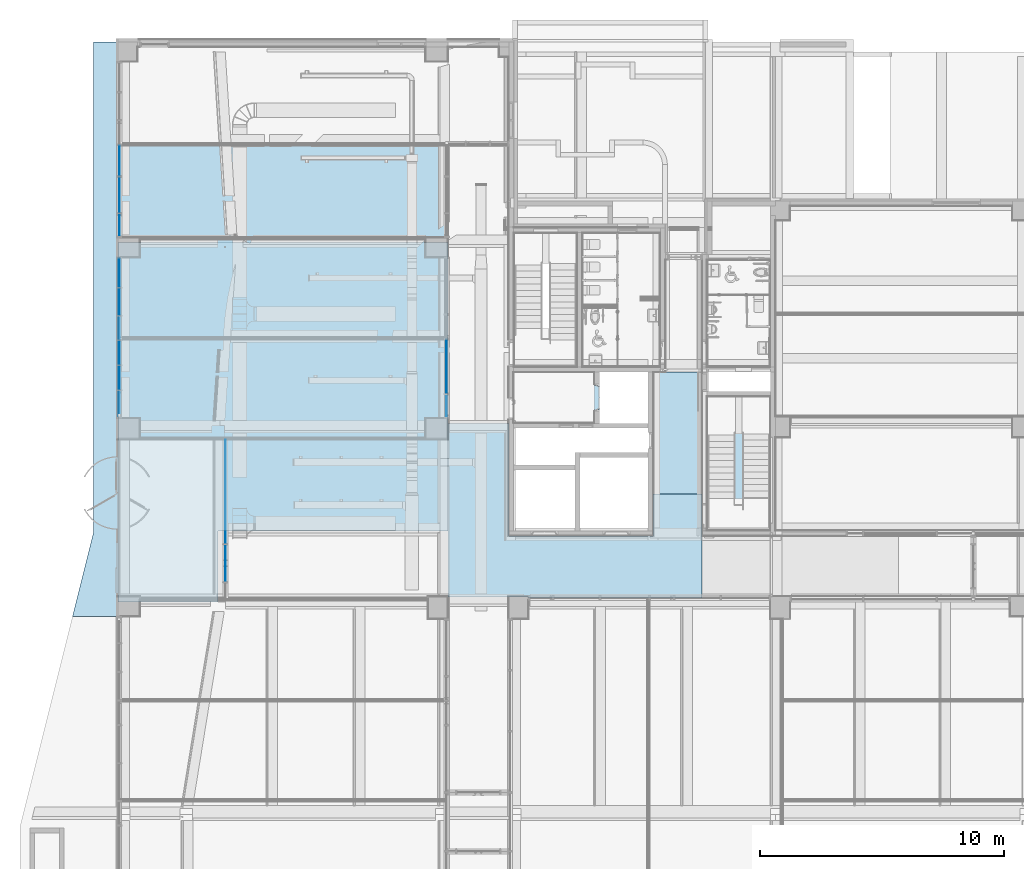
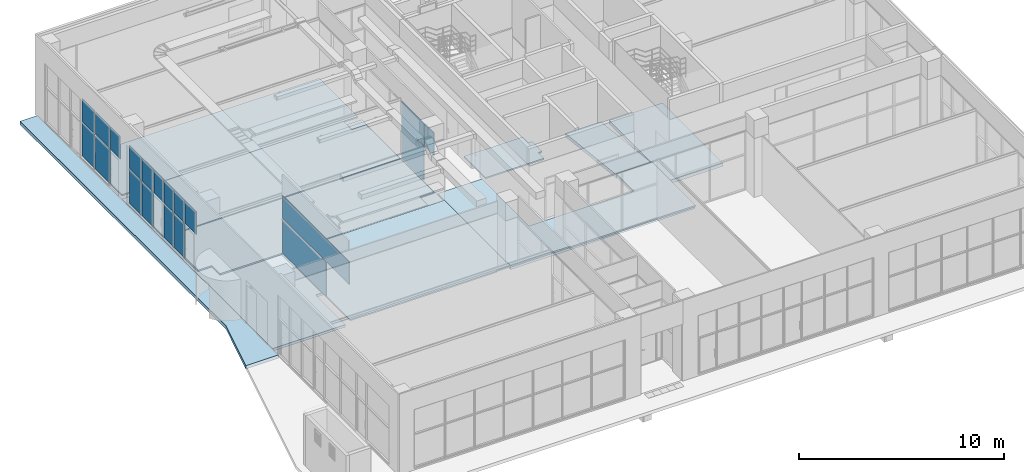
# One storey, part 24 of 100: 20 plates, 11 slabs, 4 elements without a shape of their own.
"""IFC2X3 building model written with IfcOpenShell, lengths in millimetres."""

from ifc_helpers import new_model, entity, si_unit, converted_unit, derived_unit, direction, frame, frame_2d, origin, origin_2d_with_axis, place, context, subcontext, project, spatial, polyline, rectangle, outline, extrude, clip, halfspace, source, transform, mapped, material, layer, layer_set, layer_usage, type_object, type_shapes, element, aggregate, save


model = new_model("IFC2X3")

# Units and contexts
model_context = context("Model", 3, precision=0.01, world=origin(), true_north=direction((6.123031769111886e-17, 1.0)))
body_context = subcontext(model_context, "Body", "Model", "MODEL_VIEW")
ifc_project = project(units=[si_unit("LENGTHUNIT", "METRE", prefix="MILLI"), si_unit("AREAUNIT", "SQUARE_METRE"), si_unit("VOLUMEUNIT", "CUBIC_METRE"), converted_unit("PLANEANGLEUNIT", "DEGREE", entity("IfcRatioMeasure", 0.017453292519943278), si_unit("PLANEANGLEUNIT", "RADIAN"), dimensions=[0, 0, 0, 0, 0, 0, 0]), si_unit("MASSUNIT", "GRAM", prefix="KILO"), derived_unit("MASSDENSITYUNIT", [(si_unit("MASSUNIT", "GRAM", prefix="KILO"), 1), (si_unit("LENGTHUNIT", "METRE"), -3)]), derived_unit("MOMENTOFINERTIAUNIT", [(si_unit("LENGTHUNIT", "METRE"), 4)]), si_unit("TIMEUNIT", "SECOND"), si_unit("FREQUENCYUNIT", "HERTZ"), si_unit("THERMODYNAMICTEMPERATUREUNIT", "DEGREE_CELSIUS"), derived_unit("THERMALTRANSMITTANCEUNIT", [(si_unit("MASSUNIT", "GRAM", prefix="KILO"), 1), (si_unit("THERMODYNAMICTEMPERATUREUNIT", "KELVIN"), -1), (si_unit("TIMEUNIT", "SECOND"), -3)]), derived_unit("VOLUMETRICFLOWRATEUNIT", [(si_unit("LENGTHUNIT", "METRE"), 3), (si_unit("TIMEUNIT", "SECOND"), -1)]), derived_unit("MASSFLOWRATEUNIT", [(si_unit("MASSUNIT", "GRAM", prefix="KILO"), 1), (si_unit("TIMEUNIT", "SECOND"), -1)]), derived_unit("ROTATIONALFREQUENCYUNIT", [(si_unit("TIMEUNIT", "SECOND"), -1)]), si_unit("ELECTRICCURRENTUNIT", "AMPERE"), si_unit("ELECTRICVOLTAGEUNIT", "VOLT"), si_unit("POWERUNIT", "WATT"), si_unit("FORCEUNIT", "NEWTON", prefix="KILO"), si_unit("ILLUMINANCEUNIT", "LUX"), si_unit("LUMINOUSFLUXUNIT", "LUMEN"), si_unit("LUMINOUSINTENSITYUNIT", "CANDELA"), derived_unit("USERDEFINED", [(si_unit("MASSUNIT", "GRAM", prefix="KILO"), -1), (si_unit("LENGTHUNIT", "METRE"), -2), (si_unit("TIMEUNIT", "SECOND"), 3), (si_unit("LUMINOUSFLUXUNIT", "LUMEN"), 1)]), derived_unit("SOUNDPOWERUNIT", [(si_unit("MASSUNIT", "GRAM", prefix="KILO"), 1), (si_unit("LENGTHUNIT", "METRE"), 2), (si_unit("TIMEUNIT", "SECOND"), -3)]), derived_unit("SOUNDPRESSUREUNIT", [(si_unit("MASSUNIT", "GRAM", prefix="KILO"), 1), (si_unit("LENGTHUNIT", "METRE"), -1), (si_unit("TIMEUNIT", "SECOND"), -2)]), derived_unit("LINEARVELOCITYUNIT", [(si_unit("LENGTHUNIT", "METRE"), 1), (si_unit("TIMEUNIT", "SECOND"), -1)]), si_unit("PRESSUREUNIT", "PASCAL"), derived_unit("USERDEFINED", [(si_unit("LENGTHUNIT", "METRE"), -2), (si_unit("MASSUNIT", "GRAM", prefix="KILO"), 1), (si_unit("TIMEUNIT", "SECOND"), -2)]), derived_unit("LINEARFORCEUNIT", [(si_unit("MASSUNIT", "GRAM", prefix="KILO"), 1), (si_unit("LENGTHUNIT", "METRE"), 1), (si_unit("TIMEUNIT", "SECOND"), -2), (si_unit("LENGTHUNIT", "METRE"), -1)]), derived_unit("PLANARFORCEUNIT", [(si_unit("MASSUNIT", "GRAM", prefix="KILO"), 1), (si_unit("LENGTHUNIT", "METRE"), 1), (si_unit("TIMEUNIT", "SECOND"), -2), (si_unit("LENGTHUNIT", "METRE"), -2)])], contexts=[model_context])

# Site, building, storey
site_placement = place(None, frame((-14167.972527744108, -657.2125860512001, 0.0)))
site = spatial("IfcSite", under=ifc_project, at=site_placement, Name="Default", CompositionType="ELEMENT")
building_placement = place(site_placement, origin())
building = spatial("IfcBuilding", under=site, at=building_placement, Name="Sample Building", CompositionType="ELEMENT")
storey_placement = place(building_placement, origin())
storey = spatial("IfcBuildingStorey", under=building, at=storey_placement, Name="지상 1층", CompositionType="ELEMENT", Elevation=0.0)

# Slabs
ifc_material_1 = material(Name="KBIMS-콘크리트")
ifc_layer_1 = layer(ifc_material_1, 200.0)
ifc_layer_set_1 = layer_set([ifc_layer_1], Name="바닥:SL111-철근콘크리트구조 바닥 200mm_S4")
ifc_layer_usage_1 = layer_usage(ifc_layer_set_1, "AXIS3", "POSITIVE", 0.0)
slab_type_1 = type_object("IfcSlabType", Name="바닥:SL111-철근콘크리트구조 바닥 200mm_S4", PredefinedType="FLOOR", material=ifc_layer_set_1)
slab_1_placement = place(storey_placement, origin())
element("IfcSlab", 1, at=slab_1_placement, inside=storey, type_object=slab_type_1, material=ifc_layer_usage_1, Name="바닥:SL111-철근콘크리트구조 바닥 200mm_S4", ObjectType="바닥:SL111-철근콘크리트구조 바닥 200mm_S4", PredefinedType="FLOOR", context=body_context, shape_type="SweptSolid", body=[
    clip(clip(extrude(rectangle(XDim=5030.159043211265, YDim=1999.991307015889, at=frame_2d((0.0, -6.480149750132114e-12), x_axis=(1.0, 0.0))), frame((36967.96814464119, 19757.21231133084, -275.0), z_axis=(0.0, -0.10934047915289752, -0.994004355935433), x_axis=(0.0, 0.994004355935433, -0.10934047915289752)), (0.10934047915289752, 0.0, 0.994004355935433), 202.42000000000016), halfspace(frame((36967.96814464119, 17257.212311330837, -201.20636172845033), z_axis=(0.0, -0.10934047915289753, -0.994004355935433), x_axis=(0.0, 0.994004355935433, -0.10934047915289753)), False)), halfspace(frame((36967.96814464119, 17257.212311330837, 0.0), z_axis=(0.0, 0.10934047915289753, 0.994004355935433), x_axis=(0.0, -0.994004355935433, 0.10934047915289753)), False)),
])
ifc_material_2 = material(Name="SL341-테라조 바닥 (바탕48mm, 마감32mm)")
ifc_layer_2 = layer(ifc_material_2, 80.0)
ifc_layer_set_2 = layer_set([ifc_layer_2], Name="바닥:A1-14-06B-테라조타일 (80mm)")
ifc_layer_usage_2 = layer_usage(ifc_layer_set_2, "AXIS3", "POSITIVE", 0.0)
slab_type_2 = type_object("IfcSlabType", Name="바닥:A1-14-06B-테라조타일 (80mm)", PredefinedType="FLOOR", material=ifc_layer_set_2)
slab_2_placement = place(storey_placement, origin())
element("IfcSlab", 2, at=slab_2_placement, inside=storey, type_object=slab_type_2, material=ifc_layer_usage_2, Name="바닥:A1-14-06B-테라조타일 (80mm)", ObjectType="바닥:A1-14-06B-테라조타일 (80mm)", PredefinedType="FLOOR", context=body_context, shape_type="SweptSolid", body=[
    extrude(outline(polyline([(-2675.026012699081, -6634.220285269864), (625.0086708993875, -6634.220285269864), (625.0086708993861, -5858.587504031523), (1425.0086708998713, -5858.58750403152), (1425.0086708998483, 5841.412587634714), (625.0086708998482, 5841.4125876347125), (625.0086708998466, 6651.395201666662), (-2675.026012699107, 6651.395201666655), (-2675.026012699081, -6634.220285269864)])), frame((20826.559940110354, 26332.20363709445, 80.0), z_axis=(0.0, 0.0, -1.0), x_axis=(0.0, 1.0, 0.0)), (0.0, 0.0, 1.0), 80.0),
])
ifc_material_3 = material(Name="SL312-화강석물갈기 바닥 (바탕30mm, 마감30mm)")
ifc_layer_3 = layer(ifc_material_3, 80.0)
ifc_layer_set_3 = layer_set([ifc_layer_3], Name="바닥:A1-15-01B-화강석(물갈기) (80mm)")
ifc_layer_usage_3 = layer_usage(ifc_layer_set_3, "AXIS3", "POSITIVE", 0.0)
slab_type_3 = type_object("IfcSlabType", Name="바닥:A1-15-01B-화강석(물갈기) (80mm)", PredefinedType="FLOOR", material=ifc_layer_set_3)
slab_3_placement = place(storey_placement, origin())
element("IfcSlab", 3, at=slab_3_placement, inside=storey, type_object=slab_type_3, material=ifc_layer_usage_3, Name="바닥:A1-15-01B-화강석(물갈기) (80mm)", ObjectType="바닥:A1-15-01B-화강석(물갈기) (80mm)", PredefinedType="FLOOR", context=body_context, shape_type="SweptSolid", body=[
    extrude(outline(polyline([(-1050.0, -2525.0), (1050.0, -2525.0), (1050.0, 775.0), (507.3633281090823, 775.0), (479.7770683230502, 975.0), (-479.7770683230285, 975.0), (-507.3633281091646, 775.0), (-1050.0, 775.0), (-1050.0, -2525.0)])), frame((32791.125814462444, 21207.212309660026, 80.0), z_axis=(0.0, 0.0, -1.0), x_axis=(0.0, 1.0, 0.0)), (0.0, 0.0, 1.0), 80.0),
])

# Curtain wall, plate
curtain_wall_type = type_object("IfcCurtainWallType", Name="커튼월:CW112-스테인리스 스틸 커튼월", PredefinedType="NOTDEFINED")
curtain_wall_1_placement = place(storey_placement, origin())
curtain_wall_1 = element("IfcCurtainWall", 4, at=curtain_wall_1_placement, inside=storey, type_object=curtain_wall_type, Name="커튼월:CW112-스테인리스 스틸 커튼월", ObjectType="커튼월:CW112-스테인리스 스틸 커튼월")
ifc_material_4 = material(Name="KBIMS-로이유리(코팅)")
plate_type_1 = type_object("IfcPlateType", Name="CW300-THK24.Low-e coating glass:CW300-THK24.Low-e coating glass", PredefinedType="CURTAIN_PANEL", material=ifc_material_4)
shared_shape_1 = source(origin(), body_context, "Body", "SweptSolid", [
    extrude(rectangle(XDim=1100.0000000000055, YDim=24.000000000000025, at=origin_2d_with_axis()), frame((0.0, 0.0, 0.0), z_axis=(0.0, 0.0, 1.0), x_axis=(-1.0, 0.0, 0.0)), (0.0, 0.0, 1.0), 2024.9999999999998),
])
type_shapes(plate_type_1, [shared_shape_1])
plate_1_placement = place(curtain_wall_1_placement, frame((14129.839654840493, 25132.17762439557, 130.0), z_axis=(0.0, 0.0, 1.0), x_axis=(0.0, -1.0, 0.0)))
plate_1 = element("IfcPlate", 5, at=plate_1_placement, type_object=plate_type_1, material=ifc_material_4, Name="CW300-THK24.Low-e coating glass:CW300-THK24.Low-e coating glass", ObjectType="CW300-THK24.Low-e coating glass:CW300-THK24.Low-e coating glass", context=body_context, shape_type="MappedRepresentation", body=[
    mapped(shared_shape_1, transform((0.0, 0.0, 0.0), scale=1.0)),
])

# Curtain wall, plates
curtain_wall_2_placement = place(storey_placement, origin())
curtain_wall_2 = element("IfcCurtainWall", 6, at=curtain_wall_2_placement, inside=storey, type_object=curtain_wall_type, Name="커튼월:CW112-스테인리스 스틸 커튼월", ObjectType="커튼월:CW112-스테인리스 스틸 커튼월")
plate_type_2 = type_object("IfcPlateType", Name="CW300-THK24.Low-e coating glass:CW300-THK24.Low-e coating glass", PredefinedType="CURTAIN_PANEL", material=ifc_material_4)
shared_shape_2 = source(origin(), body_context, "Body", "SweptSolid", [
    extrude(rectangle(XDim=1250.0000000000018, YDim=24.000000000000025, at=origin_2d_with_axis()), frame((0.0, 0.0, 0.0), z_axis=(0.0, 0.0, 1.0), x_axis=(-1.0, 0.0, 0.0)), (0.0, 0.0, 1.0), 2024.9999999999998),
])
type_shapes(plate_type_2, [shared_shape_2])
plate_2_placement = place(curtain_wall_2_placement, frame((14130.455105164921, 30907.177748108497, 130.0), z_axis=(0.0, 0.0, 1.0), x_axis=(0.0, -1.0, 0.0)))
plate_2 = element("IfcPlate", 7, at=plate_2_placement, type_object=plate_type_2, material=ifc_material_4, Name="CW300-THK24.Low-e coating glass:CW300-THK24.Low-e coating glass", ObjectType="CW300-THK24.Low-e coating glass:CW300-THK24.Low-e coating glass", context=body_context, shape_type="MappedRepresentation", body=[
    mapped(shared_shape_2, transform((0.0, 0.0, 0.0), scale=1.0)),
])
plate_type_3 = type_object("IfcPlateType", Name="CW300-THK24.Low-e coating glass:CW300-THK24.Low-e coating glass", PredefinedType="CURTAIN_PANEL", material=ifc_material_4)
shared_shape_3 = source(origin(), body_context, "Body", "SweptSolid", [
    extrude(rectangle(XDim=1449.965162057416, YDim=24.000000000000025, at=origin_2d_with_axis()), frame((0.0, 0.0, 0.0), z_axis=(0.0, 0.0, 1.0), x_axis=(-1.0, 0.0, 0.0)), (0.0, 0.0, 1.0), 2024.9999999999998),
])
type_shapes(plate_type_3, [shared_shape_3])
plate_3_placement = place(curtain_wall_2_placement, frame((14130.45510516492, 29507.19516707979, 130.0), z_axis=(0.0, 0.0, 1.0), x_axis=(0.0, -1.0, 0.0)))
plate_3 = element("IfcPlate", 8, at=plate_3_placement, type_object=plate_type_3, material=ifc_material_4, Name="CW300-THK24.Low-e coating glass:CW300-THK24.Low-e coating glass", ObjectType="CW300-THK24.Low-e coating glass:CW300-THK24.Low-e coating glass", context=body_context, shape_type="MappedRepresentation", body=[
    mapped(shared_shape_3, transform((0.0, 0.0, 0.0), scale=1.0)),
])

# Plate
plate_type_4 = type_object("IfcPlateType", Name="CW300-THK24.Low-e coating glass:CW300-THK24.Low-e coating glass", PredefinedType="CURTAIN_PANEL", material=ifc_material_4)
shared_shape_4 = source(origin(), body_context, "Body", "SweptSolid", [
    extrude(rectangle(XDim=1100.0000000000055, YDim=24.000000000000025, at=origin_2d_with_axis()), frame((0.0, 0.0, 0.0), z_axis=(0.0, 0.0, 1.0), x_axis=(-1.0, 0.0, 0.0)), (0.0, 0.0, 1.0), 1345.000000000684),
])
type_shapes(plate_type_4, [shared_shape_4])
plate_4_placement = place(curtain_wall_1_placement, frame((14129.839654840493, 25132.17762439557, 2205.0), z_axis=(0.0, 0.0, 1.0), x_axis=(0.0, -1.0, 0.0)))
plate_4 = element("IfcPlate", 9, at=plate_4_placement, type_object=plate_type_4, material=ifc_material_4, Name="CW300-THK24.Low-e coating glass:CW300-THK24.Low-e coating glass", ObjectType="CW300-THK24.Low-e coating glass:CW300-THK24.Low-e coating glass", context=body_context, shape_type="MappedRepresentation", body=[
    mapped(shared_shape_4, transform((0.0, 0.0, 0.0), scale=1.0)),
])

plate_type_5 = type_object("IfcPlateType", Name="CW300-THK24.Low-e coating glass:CW300-THK24.Low-e coating glass", PredefinedType="CURTAIN_PANEL", material=ifc_material_4)
shared_shape_5 = source(origin(), body_context, "Body", "SweptSolid", [
    extrude(rectangle(XDim=950.0000000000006, YDim=24.000000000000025, at=origin_2d_with_axis()), frame((0.0, 0.0, 0.0), z_axis=(0.0, 0.0, 1.0), x_axis=(-1.0, 0.0, 0.0)), (0.0, 0.0, 1.0), 1345.000000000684),
])
type_shapes(plate_type_5, [shared_shape_5])
plate_5_placement = place(curtain_wall_1_placement, frame((14129.83965484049, 24057.177624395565, 2205.0), z_axis=(0.0, 0.0, 1.0), x_axis=(0.0, -1.0, 0.0)))
plate_5 = element("IfcPlate", 10, at=plate_5_placement, type_object=plate_type_5, material=ifc_material_4, Name="CW300-THK24.Low-e coating glass:CW300-THK24.Low-e coating glass", ObjectType="CW300-THK24.Low-e coating glass:CW300-THK24.Low-e coating glass", context=body_context, shape_type="MappedRepresentation", body=[
    mapped(shared_shape_5, transform((0.0, 0.0, 0.0), scale=1.0)),
])

plate_type_6 = type_object("IfcPlateType", Name="CW300-THK24.Low-e coating glass:CW300-THK24.Low-e coating glass", PredefinedType="CURTAIN_PANEL", material=ifc_material_4)
shared_shape_6 = source(origin(), body_context, "Body", "SweptSolid", [
    extrude(rectangle(XDim=1250.0000000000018, YDim=24.000000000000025, at=origin_2d_with_axis()), frame((0.0, 0.0, 0.0), z_axis=(0.0, 0.0, 1.0), x_axis=(-1.0, 0.0, 0.0)), (0.0, 0.0, 1.0), 1345.000000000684),
])
type_shapes(plate_type_6, [shared_shape_6])
plate_6_placement = place(curtain_wall_2_placement, frame((14130.455105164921, 30907.177748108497, 2205.0), z_axis=(0.0, 0.0, 1.0), x_axis=(0.0, -1.0, 0.0)))
plate_6 = element("IfcPlate", 11, at=plate_6_placement, type_object=plate_type_6, material=ifc_material_4, Name="CW300-THK24.Low-e coating glass:CW300-THK24.Low-e coating glass", ObjectType="CW300-THK24.Low-e coating glass:CW300-THK24.Low-e coating glass", context=body_context, shape_type="MappedRepresentation", body=[
    mapped(shared_shape_6, transform((0.0, 0.0, 0.0), scale=1.0)),
])

plate_type_7 = type_object("IfcPlateType", Name="CW300-THK24.Low-e coating glass:CW300-THK24.Low-e coating glass", PredefinedType="CURTAIN_PANEL", material=ifc_material_4)
shared_shape_7 = source(origin(), body_context, "Body", "SweptSolid", [
    extrude(rectangle(XDim=1449.965162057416, YDim=24.000000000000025, at=origin_2d_with_axis()), frame((0.0, 0.0, 0.0), z_axis=(0.0, 0.0, 1.0), x_axis=(-1.0, 0.0, 0.0)), (0.0, 0.0, 1.0), 1345.000000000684),
])
type_shapes(plate_type_7, [shared_shape_7])
plate_7_placement = place(curtain_wall_2_placement, frame((14130.45510516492, 29507.19516707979, 2205.0), z_axis=(0.0, 0.0, 1.0), x_axis=(0.0, -1.0, 0.0)))
plate_7 = element("IfcPlate", 12, at=plate_7_placement, type_object=plate_type_7, material=ifc_material_4, Name="CW300-THK24.Low-e coating glass:CW300-THK24.Low-e coating glass", ObjectType="CW300-THK24.Low-e coating glass:CW300-THK24.Low-e coating glass", context=body_context, shape_type="MappedRepresentation", body=[
    mapped(shared_shape_7, transform((0.0, 0.0, 0.0), scale=1.0)),
])

plate_type_8 = type_object("IfcPlateType", Name="CW300-THK24.Low-e coating glass:CW300-THK24.Low-e coating glass", PredefinedType="CURTAIN_PANEL", material=ifc_material_4)
shared_shape_8 = source(origin(), body_context, "Body", "SweptSolid", [
    extrude(rectangle(XDim=925.0174167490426, YDim=24.000000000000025, at=origin_2d_with_axis()), frame((0.0, 0.0, 0.0), z_axis=(0.0, 0.0, 1.0), x_axis=(-1.0, 0.0, 0.0)), (0.0, 0.0, 1.0), 1345.0000000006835),
])
type_shapes(plate_type_8, [shared_shape_8])
plate_8_placement = place(curtain_wall_2_placement, frame((14130.455105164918, 28269.703877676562, 2205.0), z_axis=(0.0, 0.0, 1.0), x_axis=(0.0, -1.0, 0.0)))
plate_8 = element("IfcPlate", 13, at=plate_8_placement, type_object=plate_type_8, material=ifc_material_4, Name="CW300-THK24.Low-e coating glass:CW300-THK24.Low-e coating glass", ObjectType="CW300-THK24.Low-e coating glass:CW300-THK24.Low-e coating glass", context=body_context, shape_type="MappedRepresentation", body=[
    mapped(shared_shape_8, transform((0.0, 0.0, 0.0), scale=1.0)),
])

aggregate(curtain_wall_2, [plate_2, plate_3, plate_6, plate_7, plate_8])

plate_type_9 = type_object("IfcPlateType", Name="CW300-THK24.Low-e coating glass:CW300-THK24.Low-e coating glass", PredefinedType="CURTAIN_PANEL", material=ifc_material_4)
shared_shape_9 = source(origin(), body_context, "Body", "SweptSolid", [
    extrude(rectangle(XDim=1175.0172668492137, YDim=24.000000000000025, at=origin_2d_with_axis()), frame((0.0, 0.0, 0.0), z_axis=(0.0, 0.0, 1.0), x_axis=(-1.0, 0.0, 0.0)), (0.0, 0.0, 1.0), 2024.9999999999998),
])
type_shapes(plate_type_9, [shared_shape_9])
plate_9_placement = place(curtain_wall_1_placement, frame((14129.839654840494, 26319.686257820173, 130.0), z_axis=(0.0, 0.0, 1.0), x_axis=(0.0, -1.0, 0.0)))
plate_9 = element("IfcPlate", 14, at=plate_9_placement, type_object=plate_type_9, material=ifc_material_4, Name="CW300-THK24.Low-e coating glass:CW300-THK24.Low-e coating glass", ObjectType="CW300-THK24.Low-e coating glass:CW300-THK24.Low-e coating glass", context=body_context, shape_type="MappedRepresentation", body=[
    mapped(shared_shape_9, transform((0.0, 0.0, 0.0), scale=1.0)),
])

plate_type_10 = type_object("IfcPlateType", Name="CW300-THK24.Low-e coating glass:CW300-THK24.Low-e coating glass", PredefinedType="CURTAIN_PANEL", material=ifc_material_4)
shared_shape_10 = source(origin(), body_context, "Body", "SweptSolid", [
    extrude(rectangle(XDim=975.0000000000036, YDim=24.000000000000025, at=origin_2d_with_axis()), frame((0.0, 0.0, 0.0), z_axis=(0.0, 0.0, 1.0), x_axis=(-1.0, 0.0, 0.0)), (0.0, 0.0, 1.0), 2024.9999999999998),
])
type_shapes(plate_type_10, [shared_shape_10])
plate_10_placement = place(curtain_wall_1_placement, frame((14129.83965484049, 23044.677624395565, 130.0), z_axis=(0.0, 0.0, 1.0), x_axis=(0.0, -1.0, 0.0)))
plate_10 = element("IfcPlate", 15, at=plate_10_placement, type_object=plate_type_10, material=ifc_material_4, Name="CW300-THK24.Low-e coating glass:CW300-THK24.Low-e coating glass", ObjectType="CW300-THK24.Low-e coating glass:CW300-THK24.Low-e coating glass", context=body_context, shape_type="MappedRepresentation", body=[
    mapped(shared_shape_10, transform((0.0, 0.0, 0.0), scale=1.0)),
])

plate_11_placement = place(curtain_wall_1_placement, frame((14129.839654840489, 22019.677624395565, 130.0), z_axis=(0.0, 0.0, 1.0), x_axis=(0.0, -1.0, 0.0)))
plate_11 = element("IfcPlate", 16, at=plate_11_placement, type_object=plate_type_10, material=ifc_material_4, Name="CW300-THK24.Low-e coating glass:CW300-THK24.Low-e coating glass", ObjectType="CW300-THK24.Low-e coating glass:CW300-THK24.Low-e coating glass", context=body_context, shape_type="MappedRepresentation", body=[
    mapped(shared_shape_10, transform((0.0, 0.0, 0.0), scale=1.0)),
])

plate_type_11 = type_object("IfcPlateType", Name="CW300-THK24.Low-e coating glass:CW300-THK24.Low-e coating glass", PredefinedType="CURTAIN_PANEL", material=ifc_material_4)
shared_shape_11 = source(origin(), body_context, "Body", "SweptSolid", [
    extrude(rectangle(XDim=1175.0172668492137, YDim=24.000000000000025, at=origin_2d_with_axis()), frame((0.0, 0.0, 0.0), z_axis=(0.0, 0.0, 1.0), x_axis=(-1.0, 0.0, 0.0)), (0.0, 0.0, 1.0), 1345.000000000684),
])
type_shapes(plate_type_11, [shared_shape_11])
plate_12_placement = place(curtain_wall_1_placement, frame((14129.839654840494, 26319.686257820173, 2205.0), z_axis=(0.0, 0.0, 1.0), x_axis=(0.0, -1.0, 0.0)))
plate_12 = element("IfcPlate", 17, at=plate_12_placement, type_object=plate_type_11, material=ifc_material_4, Name="CW300-THK24.Low-e coating glass:CW300-THK24.Low-e coating glass", ObjectType="CW300-THK24.Low-e coating glass:CW300-THK24.Low-e coating glass", context=body_context, shape_type="MappedRepresentation", body=[
    mapped(shared_shape_11, transform((0.0, 0.0, 0.0), scale=1.0)),
])

plate_type_12 = type_object("IfcPlateType", Name="CW300-THK24.Low-e coating glass:CW300-THK24.Low-e coating glass", PredefinedType="CURTAIN_PANEL", material=ifc_material_4)
shared_shape_12 = source(origin(), body_context, "Body", "SweptSolid", [
    extrude(rectangle(XDim=975.0000000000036, YDim=24.000000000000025, at=origin_2d_with_axis()), frame((0.0, 0.0, 0.0), z_axis=(0.0, 0.0, 1.0), x_axis=(-1.0, 0.0, 0.0)), (0.0, 0.0, 1.0), 1345.000000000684),
])
type_shapes(plate_type_12, [shared_shape_12])
plate_13_placement = place(curtain_wall_1_placement, frame((14129.83965484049, 23044.677624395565, 2205.0), z_axis=(0.0, 0.0, 1.0), x_axis=(0.0, -1.0, 0.0)))
plate_13 = element("IfcPlate", 18, at=plate_13_placement, type_object=plate_type_12, material=ifc_material_4, Name="CW300-THK24.Low-e coating glass:CW300-THK24.Low-e coating glass", ObjectType="CW300-THK24.Low-e coating glass:CW300-THK24.Low-e coating glass", context=body_context, shape_type="MappedRepresentation", body=[
    mapped(shared_shape_12, transform((0.0, 0.0, 0.0), scale=1.0)),
])

plate_14_placement = place(curtain_wall_1_placement, frame((14129.839654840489, 22019.677624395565, 2205.0), z_axis=(0.0, 0.0, 1.0), x_axis=(0.0, -1.0, 0.0)))
plate_14 = element("IfcPlate", 19, at=plate_14_placement, type_object=plate_type_12, material=ifc_material_4, Name="CW300-THK24.Low-e coating glass:CW300-THK24.Low-e coating glass", ObjectType="CW300-THK24.Low-e coating glass:CW300-THK24.Low-e coating glass", context=body_context, shape_type="MappedRepresentation", body=[
    mapped(shared_shape_12, transform((0.0, 0.0, 0.0), scale=1.0)),
])

plate_type_13 = type_object("IfcPlateType", Name="CW300-THK24.Low-e coating glass:CW300-THK24.Low-e coating glass", PredefinedType="CURTAIN_PANEL", material=ifc_material_4)
shared_shape_13 = source(origin(), body_context, "Body", "SweptSolid", [
    extrude(rectangle(XDim=1074.982733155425, YDim=24.000000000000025, at=origin_2d_with_axis()), frame((0.0, 0.0, 0.0), z_axis=(0.0, 0.0, 1.0), x_axis=(-1.0, 0.0, 0.0)), (0.0, 0.0, 1.0), 1345.0000000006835),
])
type_shapes(plate_type_13, [shared_shape_13])
plate_15_placement = place(curtain_wall_1_placement, frame((14129.839654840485, 20944.68625781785, 2205.0), z_axis=(0.0, 0.0, 1.0), x_axis=(0.0, -1.0, 0.0)))
plate_15 = element("IfcPlate", 20, at=plate_15_placement, type_object=plate_type_13, material=ifc_material_4, Name="CW300-THK24.Low-e coating glass:CW300-THK24.Low-e coating glass", ObjectType="CW300-THK24.Low-e coating glass:CW300-THK24.Low-e coating glass", context=body_context, shape_type="MappedRepresentation", body=[
    mapped(shared_shape_13, transform((0.0, 0.0, 0.0), scale=1.0)),
])

aggregate(curtain_wall_1, [plate_9, plate_1, plate_10, plate_11, plate_12, plate_4, plate_5, plate_13, plate_14, plate_15])

# Curtain wall, plates
curtain_wall_3_placement = place(storey_placement, origin())
curtain_wall_3 = element("IfcCurtainWall", 21, at=curtain_wall_3_placement, inside=storey, type_object=curtain_wall_type, Name="커튼월:CW112-스테인리스 스틸 커튼월", ObjectType="커튼월:CW112-스테인리스 스틸 커튼월")
plate_type_14 = type_object("IfcPlateType", Name="CW300-THK24.Low-e coating glass:CW300-THK24.Low-e coating glass", PredefinedType="CURTAIN_PANEL", material=ifc_material_4)
shared_shape_14 = source(origin(), body_context, "Body", "SweptSolid", [
    extrude(rectangle(XDim=24.000000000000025, YDim=4262.409290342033, at=origin_2d_with_axis()), frame((0.0, 0.0, 0.0), z_axis=(0.0, 0.0, 1.0), x_axis=(0.0, 1.0, 0.0)), (0.0, 0.0, 1.0), 2024.9999999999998),
])
type_shapes(plate_type_14, [shared_shape_14])
plate_16_placement = place(curtain_wall_3_placement, frame((18467.96379814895, 17363.472979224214, 130.0), z_axis=(0.0, 0.0, 1.0), x_axis=(0.0, -1.0, 0.0)))
plate_16 = element("IfcPlate", 22, at=plate_16_placement, type_object=plate_type_14, material=ifc_material_4, Name="CW300-THK24.Low-e coating glass:CW300-THK24.Low-e coating glass", ObjectType="CW300-THK24.Low-e coating glass:CW300-THK24.Low-e coating glass", context=body_context, shape_type="MappedRepresentation", body=[
    mapped(shared_shape_14, transform((0.0, 0.0, 0.0), scale=1.0)),
])
plate_type_15 = type_object("IfcPlateType", Name="CW300-THK24.Low-e coating glass:CW300-THK24.Low-e coating glass", PredefinedType="CURTAIN_PANEL", material=ifc_material_4)
shared_shape_15 = source(origin(), body_context, "Body", "SweptSolid", [
    extrude(rectangle(XDim=24.000000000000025, YDim=6492.4650383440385, at=origin_2d_with_axis()), frame((0.0, 0.0, 0.0), z_axis=(0.0, 0.0, 1.0), x_axis=(0.0, 1.0, 0.0)), (0.0, 0.0, 1.0), 1345.000000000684),
])
type_shapes(plate_type_15, [shared_shape_15])
plate_17_placement = place(curtain_wall_3_placement, frame((18467.963798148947, 16248.44510522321, 2205.0), z_axis=(0.0, 0.0, 1.0), x_axis=(0.0, -1.0, 0.0)))
plate_17 = element("IfcPlate", 23, at=plate_17_placement, type_object=plate_type_15, material=ifc_material_4, Name="CW300-THK24.Low-e coating glass:CW300-THK24.Low-e coating glass", ObjectType="CW300-THK24.Low-e coating glass:CW300-THK24.Low-e coating glass", context=body_context, shape_type="MappedRepresentation", body=[
    mapped(shared_shape_15, transform((0.0, 0.0, 0.0), scale=1.0)),
])
aggregate(curtain_wall_3, [plate_16, plate_17])

curtain_wall_4_placement = place(storey_placement, origin())
curtain_wall_4 = element("IfcCurtainWall", 24, at=curtain_wall_4_placement, inside=storey, type_object=curtain_wall_type, Name="커튼월:CW112-스테인리스 스틸 커튼월", ObjectType="커튼월:CW112-스테인리스 스틸 커튼월")
plate_type_16 = type_object("IfcPlateType", Name="CW300-THK24.Low-e coating glass:CW300-THK24.Low-e coating glass", PredefinedType="CURTAIN_PANEL", material=ifc_material_4)
shared_shape_16 = source(origin(), body_context, "Body", "SweptSolid", [
    extrude(rectangle(XDim=924.9999999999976, YDim=24.000000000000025, at=origin_2d_with_axis()), frame((0.0, 0.0, 0.0), z_axis=(0.0, 0.0, 1.0), x_axis=(-1.0, 0.0, 0.0)), (0.0, 0.0, 1.0), 1345.0000000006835),
])
type_shapes(plate_type_16, [shared_shape_16])
plate_18_placement = place(curtain_wall_4_placement, frame((27522.955141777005, 20869.71230798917, 2205.0), z_axis=(0.0, 0.0, 1.0), x_axis=(0.0, 1.0, 0.0)))
plate_18 = element("IfcPlate", 25, at=plate_18_placement, type_object=plate_type_16, material=ifc_material_4, Name="CW300-THK24.Low-e coating glass:CW300-THK24.Low-e coating glass", ObjectType="CW300-THK24.Low-e coating glass:CW300-THK24.Low-e coating glass", context=body_context, shape_type="MappedRepresentation", body=[
    mapped(shared_shape_16, transform((0.0, 0.0, 0.0), scale=1.0)),
])
plate_type_17 = type_object("IfcPlateType", Name="CW300-THK24.Low-e coating glass:CW300-THK24.Low-e coating glass", PredefinedType="CURTAIN_PANEL", material=ifc_material_4)
shared_shape_17 = source(origin(), body_context, "Body", "SweptSolid", [
    extrude(rectangle(XDim=2199.9653164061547, YDim=24.000000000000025, at=origin_2d_with_axis()), frame((0.0, 0.0, 0.0), z_axis=(0.0, 0.0, 1.0), x_axis=(-1.0, 0.0, 0.0)), (0.0, 0.0, 1.0), 2024.9999999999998),
])
type_shapes(plate_type_17, [shared_shape_17])
plate_19_placement = place(curtain_wall_4_placement, frame((27522.95514177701, 22482.194966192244, 130.0), z_axis=(0.0, 0.0, 1.0), x_axis=(0.0, 1.0, 0.0)))
plate_19 = element("IfcPlate", 26, at=plate_19_placement, type_object=plate_type_17, material=ifc_material_4, Name="CW300-THK24.Low-e coating glass:CW300-THK24.Low-e coating glass", ObjectType="CW300-THK24.Low-e coating glass:CW300-THK24.Low-e coating glass", context=body_context, shape_type="MappedRepresentation", body=[
    mapped(shared_shape_17, transform((0.0, 0.0, 0.0), scale=1.0)),
])
plate_type_18 = type_object("IfcPlateType", Name="CW300-THK24.Low-e coating glass:CW300-THK24.Low-e coating glass", PredefinedType="CURTAIN_PANEL", material=ifc_material_4)
shared_shape_18 = source(origin(), body_context, "Body", "SweptSolid", [
    extrude(rectangle(XDim=2199.9653164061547, YDim=24.000000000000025, at=origin_2d_with_axis()), frame((0.0, 0.0, 0.0), z_axis=(0.0, 0.0, 1.0), x_axis=(-1.0, 0.0, 0.0)), (0.0, 0.0, 1.0), 1345.000000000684),
])
type_shapes(plate_type_18, [shared_shape_18])
plate_20_placement = place(curtain_wall_4_placement, frame((27522.95514177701, 22482.194966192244, 2205.0), z_axis=(0.0, 0.0, 1.0), x_axis=(0.0, 1.0, 0.0)))
plate_20 = element("IfcPlate", 27, at=plate_20_placement, type_object=plate_type_18, material=ifc_material_4, Name="CW300-THK24.Low-e coating glass:CW300-THK24.Low-e coating glass", ObjectType="CW300-THK24.Low-e coating glass:CW300-THK24.Low-e coating glass", context=body_context, shape_type="MappedRepresentation", body=[
    mapped(shared_shape_18, transform((0.0, 0.0, 0.0), scale=1.0)),
])
aggregate(curtain_wall_4, [plate_19, plate_18, plate_20])

# Slabs
ifc_layer_4 = layer(ifc_material_1, 150.0)
ifc_layer_set_4 = layer_set([ifc_layer_4], Name="바닥:SL111-철근콘크리트구조 바닥 150mm_S3")
ifc_layer_usage_4 = layer_usage(ifc_layer_set_4, "AXIS3", "POSITIVE", 0.0)
slab_type_4 = type_object("IfcSlabType", Name="바닥:SL111-철근콘크리트구조 바닥 150mm_S3", PredefinedType="FLOOR", material=ifc_layer_set_4)
slab_4_placement = place(storey_placement, origin())
element("IfcSlab", 28, at=slab_4_placement, inside=storey, type_object=slab_type_4, material=ifc_layer_usage_4, Name="바닥:SL111-철근콘크리트구조 바닥 150mm_S3", ObjectType="바닥:SL111-철근콘크리트구조 바닥 150mm_S3", PredefinedType="FLOOR", context=body_context, shape_type="SweptSolid", body=[
    extrude(outline(polyline([(-3450.000010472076, -5325.008692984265), (3650.0, -5325.008692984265), (3650.0, -2825.0), (-949.9999976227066, -2825.0), (-949.9999976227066, 3075.008692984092), (750.0000057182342, 3075.008692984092), (750.0000057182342, 5075.0), (-3450.000010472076, 5075.0), (-3450.000010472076, -5325.008692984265)])), frame((32892.96379814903, 16507.212305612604, 0.0), z_axis=(0.0, 0.0, -1.0), x_axis=(0.0, 1.0, 0.0)), (0.0, 0.0, 1.0), 150.0),
])
ifc_layer_5 = layer(ifc_material_1, 150.0)
ifc_layer_set_5 = layer_set([ifc_layer_5], Name="바닥:SL111-철근콘크리트구조 바닥 150mm_S2")
ifc_layer_usage_5 = layer_usage(ifc_layer_set_5, "AXIS3", "POSITIVE", 0.0)
slab_type_5 = type_object("IfcSlabType", Name="바닥:SL111-철근콘크리트구조 바닥 150mm_S2", PredefinedType="FLOOR", material=ifc_layer_set_5)
slab_5_placement = place(storey_placement, origin())
element("IfcSlab", 29, at=slab_5_placement, inside=storey, type_object=slab_type_5, material=ifc_layer_usage_5, Name="바닥:SL111-철근콘크리트구조 바닥 150mm_S2", ObjectType="바닥:SL111-철근콘크리트구조 바닥 150mm_S2", PredefinedType="FLOOR", context=body_context, shape_type="SweptSolid", body=[
    extrude(outline(polyline([(-5866.66665716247, -5866.657998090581), (8833.333355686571, -5866.657998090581), (8833.333355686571, 7633.324652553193), (-2966.666698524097, 7633.324652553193), (-2966.666698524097, -1766.6666544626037), (-5866.66665716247, -1766.666654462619), (-5866.66665716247, -5866.657998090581)])), frame((19934.63045261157, 18723.878952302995, 0.0), z_axis=(0.0, 0.0, -1.0), x_axis=(0.0, 1.0, 0.0)), (0.0, 0.0, 1.0), 150.0),
])
ifc_layer_usage_6 = layer_usage(ifc_layer_set_3, "AXIS3", "POSITIVE", 0.0)
slab_type_6 = type_object("IfcSlabType", Name="바닥:A1-15-01B-화강석(물갈기) (80mm)", PredefinedType="FLOOR", material=ifc_layer_set_3)
slab_6_placement = place(storey_placement, origin())
element("IfcSlab", 30, at=slab_6_placement, inside=storey, type_object=slab_type_6, material=ifc_layer_usage_6, Name="바닥:A1-15-01B-화강석(물갈기) (80mm)", ObjectType="바닥:A1-15-01B-화강석(물갈기) (80mm)", PredefinedType="FLOOR", context=body_context, shape_type="SweptSolid", body=[
    extrude(outline(polyline([(-2182.4882534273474, -5770.000012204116), (4309.9767849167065, -5770.000012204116), (4309.976784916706, 3284.9913314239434), (-2127.4885314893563, 3284.9913314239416), (-2127.488531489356, 2485.0086807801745), (-2182.488253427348, 2485.0086807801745), (-2182.4882534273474, -5770.000012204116)])), frame((24282.96381035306, 15184.700839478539, 80.0), z_axis=(0.0, 0.0, -1.0), x_axis=(0.0, 1.0, 0.0)), (0.0, 0.0, 1.0), 80.0),
])
ifc_layer_usage_7 = layer_usage(ifc_layer_set_1, "AXIS3", "POSITIVE", 0.0)
slab_type_7 = type_object("IfcSlabType", Name="바닥:SL111-철근콘크리트구조 바닥 200mm_S4", PredefinedType="FLOOR", material=ifc_layer_set_1)
slab_7_placement = place(storey_placement, origin())
element("IfcSlab", 31, at=slab_7_placement, inside=storey, type_object=slab_type_7, material=ifc_layer_usage_7, Name="바닥:SL111-철근콘크리트구조 바닥 200mm_S4", ObjectType="바닥:SL111-철근콘크리트구조 바닥 200mm_S4", PredefinedType="FLOOR", context=body_context, shape_type="SweptSolid", body=[
    extrude(rectangle(XDim=5899.999996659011, YDim=3000.0000000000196, at=frame_2d((-3.183231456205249e-12, -4.320099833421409e-12), x_axis=(1.0, 0.0))), frame((39467.963798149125, 18507.2122934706, 0.0), z_axis=(0.0, 0.0, -1.0), x_axis=(0.0, 1.0, 0.0)), (0.0, 0.0, 1.0), 200.0),
])
ifc_layer_usage_8 = layer_usage(ifc_layer_set_2, "AXIS3", "POSITIVE", 0.0)
slab_type_8 = type_object("IfcSlabType", Name="바닥:A1-14-06B-테라조타일 (80mm)", PredefinedType="FLOOR", material=ifc_layer_set_2)
slab_8_placement = place(storey_placement, origin())
element("IfcSlab", 32, at=slab_8_placement, inside=storey, type_object=slab_type_8, material=ifc_layer_usage_8, Name="바닥:A1-14-06B-테라조타일 (80mm)", ObjectType="바닥:A1-14-06B-테라조타일 (80mm)", PredefinedType="FLOOR", context=body_context, shape_type="SweptSolid", body=[
    extrude(rectangle(XDim=3774.9651620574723, YDim=13285.000036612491, at=frame_2d((-4.320099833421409e-12, 2.0463630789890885e-11), x_axis=(1.0, 0.0))), frame((20835.455123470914, 29644.69516707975, 80.0), z_axis=(0.0, 0.0, -1.0), x_axis=(0.0, 1.0, 0.0)), (0.0, 0.0, 1.0), 80.0),
])
ifc_layer_usage_9 = layer_usage(ifc_layer_set_2, "AXIS3", "POSITIVE", 0.0)
slab_type_9 = type_object("IfcSlabType", Name="바닥:A1-14-06B-테라조타일 (80mm)", PredefinedType="FLOOR", material=ifc_layer_set_2)
slab_9_placement = place(storey_placement, origin())
element("IfcSlab", 33, at=slab_9_placement, inside=storey, type_object=slab_type_9, material=ifc_layer_usage_9, Name="바닥:A1-14-06B-테라조타일 (80mm)", ObjectType="바닥:A1-14-06B-테라조타일 (80mm)", PredefinedType="FLOOR", context=body_context, shape_type="SweptSolid", body=[
    extrude(outline(polyline([(-609.3576582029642, -6634.220285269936), (2628.1076582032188, -6634.220285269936), (2628.1076582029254, 6651.395201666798), (-609.3576582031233, 6651.395201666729), (-609.3576582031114, 5841.412587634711), (-1409.3923417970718, 5841.412587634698), (-1409.3923417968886, -5858.587504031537), (-609.3576582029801, -5858.587504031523), (-609.3576582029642, -6634.220285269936)])), frame((20826.559940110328, 20966.569966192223, 80.0), z_axis=(0.0, 0.0, -1.0), x_axis=(0.0, 1.0, 0.0)), (0.0, 0.0, 1.0), 80.0),
])
ifc_layer_6 = layer(ifc_material_1, 200.0)
ifc_layer_set_6 = layer_set([ifc_layer_6], Name="바닥:SL111-철근콘크리트구조 바닥 200mm_S11")
ifc_layer_usage_10 = layer_usage(ifc_layer_set_6, "AXIS3", "POSITIVE", 0.0)
slab_type_10 = type_object("IfcSlabType", Name="바닥:SL111-철근콘크리트구조 바닥 200mm_S11", PredefinedType="FLOOR", material=ifc_layer_set_6)
slab_10_placement = place(storey_placement, origin())
element("IfcSlab", 34, at=slab_10_placement, inside=storey, type_object=slab_type_10, material=ifc_layer_usage_10, Name="바닥:SL111-철근콘크리트구조 바닥 200mm_S11", ObjectType="바닥:SL111-철근콘크리트구조 바닥 200mm_S11", PredefinedType="FLOOR", context=body_context, shape_type="SweptSolid", body=[
    extrude(outline(polyline([(-770.6103116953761, -10082.46210480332), (1082.4586327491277, -10082.46210480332), (229.3809953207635, -6670.151555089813), (229.38099532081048, 13417.537882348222), (-770.6103116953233, 13417.537882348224), (-770.6103116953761, -10082.46210480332)])), frame((13297.362142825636, 22339.674412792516, 0.0), z_axis=(0.0, 0.0, -1.0), x_axis=(-1.0, 0.0, 0.0)), (0.0, 0.0, 1.0), 200.0),
])
ifc_layer_usage_11 = layer_usage(ifc_layer_set_3, "AXIS3", "POSITIVE", 0.0)
slab_type_11 = type_object("IfcSlabType", Name="바닥:A1-15-01B-화강석(물갈기) (80mm)", PredefinedType="FLOOR", material=ifc_layer_set_3)
slab_11_placement = place(storey_placement, origin())
element("IfcSlab", 35, at=slab_11_placement, inside=storey, type_object=slab_type_11, material=ifc_layer_usage_11, Name="바닥:A1-15-01B-화강석(물갈기) (80mm)", ObjectType="바닥:A1-15-01B-화강석(물갈기) (80mm)", PredefinedType="FLOOR", context=body_context, shape_type="SweptSolid", body=[
    extrude(outline(polyline([(-2498.3769589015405, -4699.508970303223), (4601.623041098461, -4699.508970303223), (4601.623041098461, -2201.3382976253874), (-2.3038419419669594, -2201.3382976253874), (-2.3038419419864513, 3700.5083790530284), (1701.6229390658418, 3700.508379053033), (1701.6229390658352, 5700.499686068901), (-2553.376786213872, 5700.499686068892), (-2553.37678621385, -1399.4916483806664), (-2498.3767862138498, -1399.4916483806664), (-2498.3769589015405, -2201.3382976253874), (-2498.3769589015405, -4699.508970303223)])), frame((32267.46411208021, 15555.589372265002, 80.0), z_axis=(0.0, 0.0, -1.0), x_axis=(0.0, 1.0, 0.0)), (0.0, 0.0, 1.0), 80.0),
])

save(model, "model.ifc")
